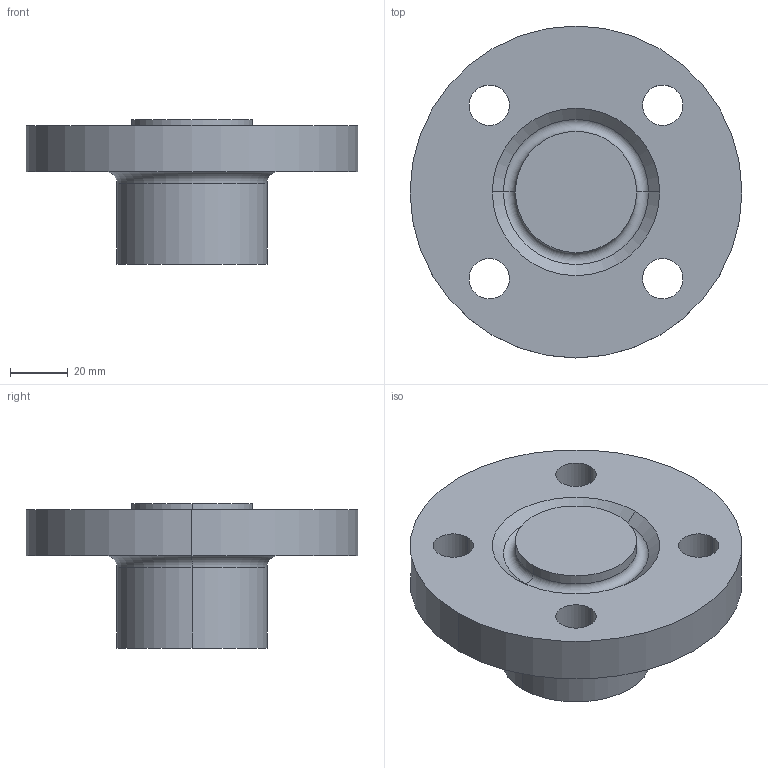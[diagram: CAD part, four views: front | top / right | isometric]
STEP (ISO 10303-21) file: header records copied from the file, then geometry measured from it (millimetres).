
FILE_DESCRIPTION (( 'STEP AP214' ), '1' );
FILE_NAME ('PN40 DN25 Type 21(i) - Type H Face.STEP', '2018-12-29T20:16:56', ( '' ), ( '' ), 'SwSTEP 2.0', 'SolidWorks 2019', '' );
FILE_SCHEMA (( 'AUTOMOTIVE_DESIGN' ));
Length unit declared in the file: millimetre
Products named in the file (1): PN40 DN25 Type 21(i) - Type H Face
Bounding box: 115 x 115 x 50 mm (x, y, z)
Volume: 224393.3 mm3; surface area: 33984.9 mm2
Topology: 1 solids, 1 shells, 24 faces, 54 edges, 34 vertices
Faces by surface type: cylinder 14, torus 4, plane 4, cone 2
Entity records: 738 total; most frequent: DIRECTION 142, CARTESIAN_POINT 113, ORIENTED_EDGE 108, AXIS2_PLACEMENT_3D 63, EDGE_CURVE 54, CIRCLE 38, VERTEX_POINT 34, EDGE_LOOP 34
